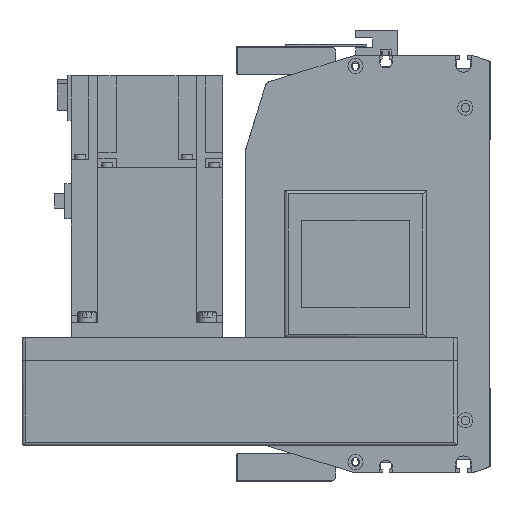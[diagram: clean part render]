
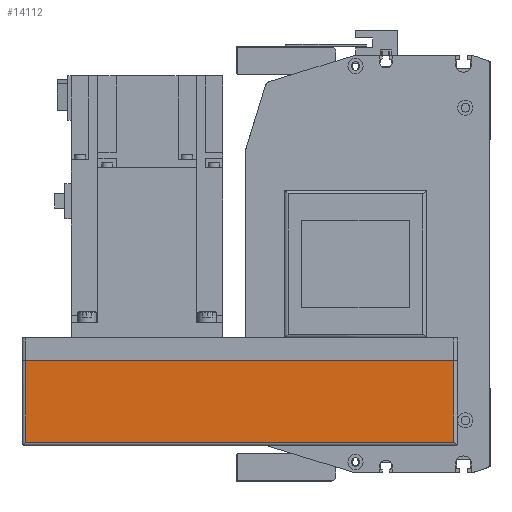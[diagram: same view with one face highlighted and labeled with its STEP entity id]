
A CAD part, left-side view. The second image highlights one B-rep face of the part: STEP entity #14112.
In plain terms, the highlighted planar face has unit normal (-1, 0, 0) as drawn and (0, -1, 0) by its records, which use the part's own axes.
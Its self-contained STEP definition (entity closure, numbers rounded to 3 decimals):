
#2291=ORIENTED_EDGE('',*,*,#5694,.F.);
#2292=ORIENTED_EDGE('',*,*,#5697,.T.);
#2293=ORIENTED_EDGE('',*,*,#5698,.T.);
#2294=ORIENTED_EDGE('',*,*,#5699,.F.);
#5694=EDGE_CURVE('',#7523,#7524,#8987,.T.);
#5697=EDGE_CURVE('',#7523,#7526,#8989,.T.);
#5698=EDGE_CURVE('',#7526,#7527,#8990,.T.);
#5699=EDGE_CURVE('',#7524,#7527,#8991,.T.);
#7523=VERTEX_POINT('',#21957);
#7524=VERTEX_POINT('',#21959);
#7526=VERTEX_POINT('',#21965);
#7527=VERTEX_POINT('',#21967);
#8987=LINE('',#21958,#10328);
#8989=LINE('',#21964,#10330);
#8990=LINE('',#21966,#10331);
#8991=LINE('',#21968,#10332);
#10328=VECTOR('',#17548,1000.);
#10330=VECTOR('',#17554,1000.);
#10331=VECTOR('',#17555,1000.);
#10332=VECTOR('',#17556,1000.);
#11494=EDGE_LOOP('',(#2291,#2292,#2293,#2294));
#12571=FACE_BOUND('',#11494,.T.);
#13504=PLANE('',#15128);
#14112=ADVANCED_FACE('',(#12571),#13504,.T.);
#15128=AXIS2_PLACEMENT_3D('',#21963,#17552,#17553);
#17548=DIRECTION('',(0.,0.,1.));
#17552=DIRECTION('',(0.,-1.,0.));
#17553=DIRECTION('',(0.,0.,-1.));
#17554=DIRECTION('',(1.,0.,0.));
#17555=DIRECTION('',(0.,0.,1.));
#17556=DIRECTION('',(1.,0.,0.));
#21957=CARTESIAN_POINT('',(-228.,-54.,-55.));
#21958=CARTESIAN_POINT('',(-228.,-54.,-57.));
#21959=CARTESIAN_POINT('',(-228.,-54.,-12.));
#21963=CARTESIAN_POINT('',(-228.,-54.,-57.));
#21964=CARTESIAN_POINT('',(-230.,-54.,-55.));
#21965=CARTESIAN_POINT('',(-2.,-54.,-55.));
#21966=CARTESIAN_POINT('',(-2.,-54.,-57.));
#21967=CARTESIAN_POINT('',(-2.,-54.,-12.));
#21968=CARTESIAN_POINT('',(-228.,-54.,-12.));
